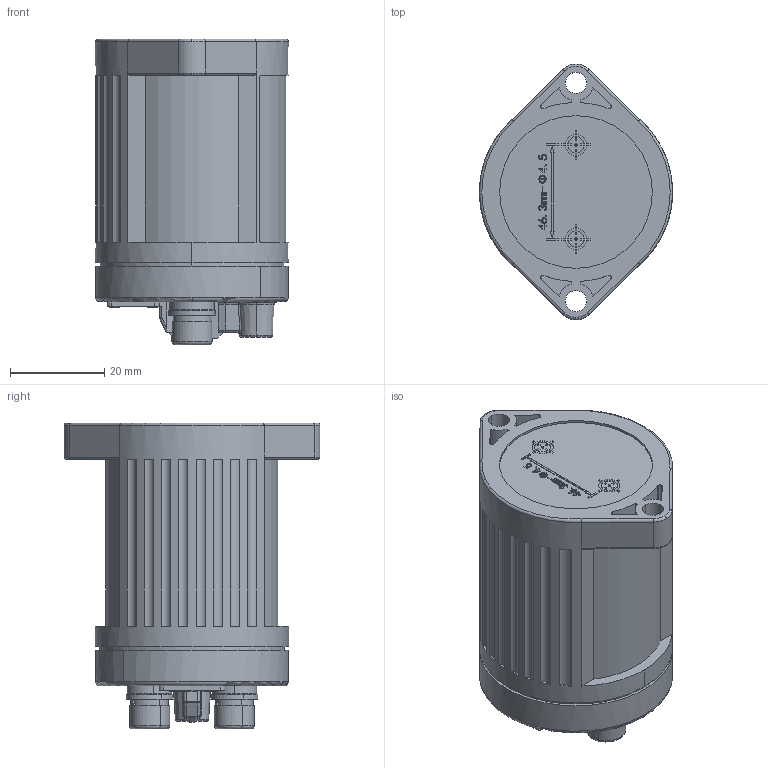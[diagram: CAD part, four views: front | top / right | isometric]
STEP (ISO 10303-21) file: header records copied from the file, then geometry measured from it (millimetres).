
FILE_DESCRIPTION (( 'STEP AP203' ), '1' );
FILE_NAME ('NDZ3-50-100、NDZ3W-50~100、NDZ3X-50B~100B、NDZ3S-10-20模型（有辅助）.STEP', '2022-06-10T00:20:41', ( '' ), ( '' ), 'SwSTEP 2.0', 'SolidWorks 2018', '' );
FILE_SCHEMA (( 'CONFIG_CONTROL_DESIGN' ));
Length unit declared in the file: millimetre
Products named in the file (2): NDZ3-50-100、NDZ3W-50~100、NDZ3X-50B~100B、NDZ3S-10-20模型（有辅助）
Bounding box: 41 x 54.3 x 64.9 mm (x, y, z)
Volume: 62111.6 mm3; surface area: 30191.8 mm2
Topology: 10 solids, 10 shells, 1401 faces, 3790 edges, 2475 vertices
Faces by surface type: plane 957, cylinder 267, bspline 76, cone 54, torus 41, sphere 6
Entity records: 49759 total; most frequent: CARTESIAN_POINT 14430, ORIENTED_EDGE 7564, DIRECTION 7006, EDGE_CURVE 3782, LINE 2504, VECTOR 2504, VERTEX_POINT 2475, AXIS2_PLACEMENT_3D 2251
